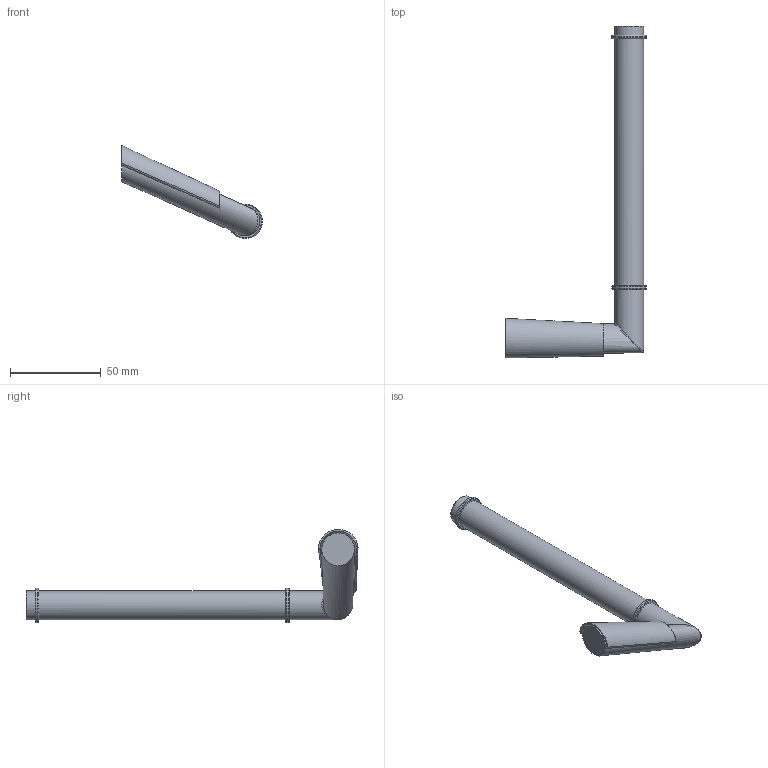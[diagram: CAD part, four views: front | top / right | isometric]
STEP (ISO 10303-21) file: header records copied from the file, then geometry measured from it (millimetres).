
FILE_DESCRIPTION(('STEP AP242'), '1');
FILE_NAME('73CR051', '', ('UNSPECIFIED'), ('UNSPECIFIED'), 'ASCON STEP Converter 1.6', 'ASCON Math Kernel', '');
FILE_SCHEMA(('AP242_MANAGED_MODEL_BASED_3D_ENGINEERING_MIM_LF { 1 0 10303 442 1 1 4 }'));
Length unit declared in the file: millimetre
Bounding box: 77.61 x 182.92 x 51.31 mm (x, y, z)
Volume: 51992.5 mm3; surface area: 17204.5 mm2
Topology: 4 solids, 4 shells, 29 faces, 58 edges, 33 vertices
Faces by surface type: bspline 11, plane 8, cylinder 5, torus 5
Full cylindrical faces by diameter (mm): 16 x3, 19 x2
Entity records: 3790 total; most frequent: CARTESIAN_POINT 3022, ORIENTED_EDGE 86, DIRECTION 74, EDGE_LOOP 44, EDGE_CURVE 43, AXIS2_PLACEMENT_3D 36, COLOUR_RGB 33, FILL_AREA_STYLE_COLOUR 33
